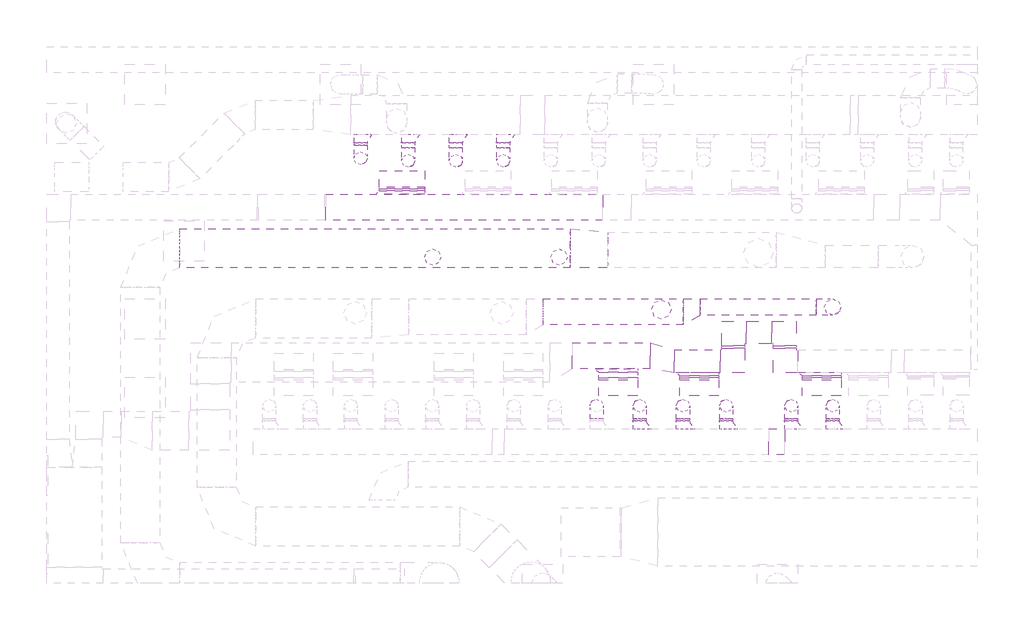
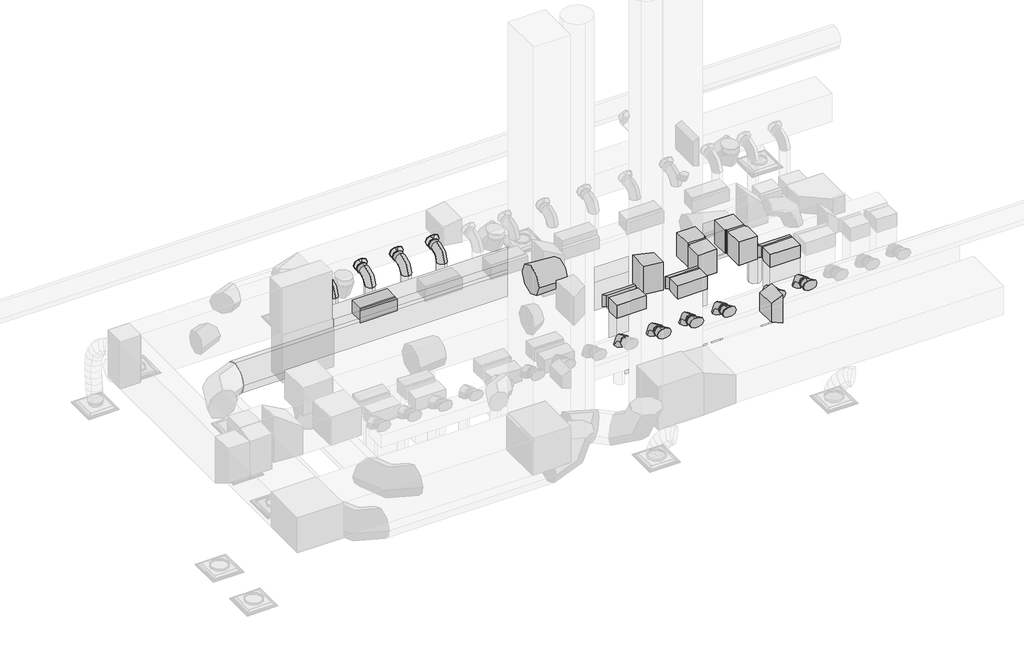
# One storey, part 22 of 33: 39 duct segments, 36 duct fittings.
"""IFC4 building model written with IfcOpenShell, lengths in millimetres."""

from ifc_helpers import new_model, si_unit, point, frame, frame_2d, origin, place, context, project, spatial, polyline, circle_curve, trimmed, segment, composite_curve, outline, extrude, transform, mapped, element, save
from components import rectangular_elbow_mitered_standard_1df2d050, rectangular_elbow_mitered_standard_22d18bc9, rectangular_elbow_mitered_standard_939e93b7, rectangular_tap_beveled_standard_61150e1b, rectangular_tap_beveled_standard_4401fc70, rectangular_tap_beveled_standard_f95184d4, rectangular_transition_angle_45_degree_179eea5a, rectangular_transition_angle_45_degree_5d946329, round_elbow_1_d_a253342a, round_elbow_1_d_6fec3262, round_takeoff_shoe_standard_1102fee2, round_transition_angle_30_degree_8316bf86, round_transition_angle_5_degree_dca123a1

model = new_model("IFC4")

# Units and contexts
model_context = context("Model", 3, world=origin())
ifc_project = project(units=[si_unit("LENGTHUNIT", "METRE", prefix="MILLI")], contexts=[model_context])

# Site, building, storey
site = spatial("IfcSite", under=ifc_project)
building = spatial("IfcBuilding", under=site)
storey = spatial("IfcBuildingStorey", under=building, Name="T.O. SLAB - 1ST", Elevation=-25.4)

# Duct fittings
placement = place(None, origin())
rectangular_elbow_mitered_standard_shape = rectangular_elbow_mitered_standard_1df2d050(model_context)
element("IfcDuctFitting", 1, ObjectType="Rectangular Elbow - Mitered : Standard", at=placement, inside=storey, context=model_context, shape_type="MappedRepresentation", body=[
    mapped(rectangular_elbow_mitered_standard_shape, transform((22447.3706646, 26457.7531965, 4530.1602958), x_axis=(1.0, 0.0, 0.0), y_axis=(0.0, 1.0, 0.0), z_axis=(0.0, 0.0, 1.0))),
])
element("IfcDuctFitting", 2, ObjectType="Rectangular Elbow - Mitered : Standard", at=placement, inside=storey, context=model_context, shape_type="MappedRepresentation", body=[
    mapped(rectangular_elbow_mitered_standard_shape, transform((22447.3706646, 26905.9810462, 4530.1602958), x_axis=(-1.0, 0.0, 0.0), y_axis=(0.0, -1.0, 0.0), z_axis=(0.0, 0.0, 1.0))),
])
element("IfcDuctFitting", 3, ObjectType="Rectangular Elbow - Mitered : Standard", at=placement, inside=storey, context=model_context, shape_type="MappedRepresentation", body=[
    mapped(rectangular_elbow_mitered_standard_shape, transform((23251.682861, 26905.9810462, 4530.1602958), x_axis=(0.0, 1.0, 0.0), y_axis=(-1.0, 0.0, 0.0), z_axis=(0.0, 0.0, 1.0))),
])
element("IfcDuctFitting", 4, ObjectType="Rectangular Elbow - Mitered : Standard", at=placement, inside=storey, context=model_context, shape_type="MappedRepresentation", body=[
    mapped(rectangular_elbow_mitered_standard_shape, transform((23251.682861, 26457.7531965, 4530.1602958), x_axis=(0.0, -1.0, 0.0), y_axis=(1.0, 0.0, 0.0), z_axis=(0.0, 0.0, 1.0))),
])
rectangular_elbow_mitered_standard_2_shape = rectangular_elbow_mitered_standard_22d18bc9(model_context)
element("IfcDuctFitting", 5, ObjectType="Rectangular Elbow - Mitered : Standard", at=placement, inside=storey, context=model_context, shape_type="MappedRepresentation", body=[
    mapped(rectangular_elbow_mitered_standard_2_shape, transform((17291.6527079, 29296.6861634, 3632.2), x_axis=(0.0, 0.0, 1.0), y_axis=(0.0, -1.0, 0.0), z_axis=(1.0, 0.0, 0.0))),
])
rectangular_elbow_mitered_standard_3_shape = rectangular_elbow_mitered_standard_939e93b7(model_context)
element("IfcDuctFitting", 6, ObjectType="Rectangular Elbow - Mitered : Standard", at=placement, inside=storey, context=model_context, shape_type="MappedRepresentation", body=[
    mapped(rectangular_elbow_mitered_standard_3_shape, transform((20656.7839544, 26045.4861634, 4445.0), x_axis=(0.0, 0.0, 1.0), y_axis=(0.0, 1.0, 0.0), z_axis=(-1.0, 0.0, 0.0))),
])
element("IfcDuctFitting", 7, ObjectType="Rectangular Elbow - Mitered : Standard", at=placement, inside=storey, context=model_context, shape_type="MappedRepresentation", body=[
    mapped(rectangular_elbow_mitered_standard_3_shape, transform((21919.1982352, 26045.4861634, 4428.5380972), x_axis=(0.0, 0.0, 1.0), y_axis=(0.0, 1.0, 0.0), z_axis=(-1.0, 0.0, 0.0))),
])
element("IfcDuctFitting", 8, ObjectType="Rectangular Elbow - Mitered : Standard", at=placement, inside=storey, context=model_context, shape_type="MappedRepresentation", body=[
    mapped(rectangular_elbow_mitered_standard_3_shape, transform((23826.8501854, 26045.4861634, 4445.0431527), x_axis=(0.0, 0.0, 1.0), y_axis=(0.0, 1.0, 0.0), z_axis=(-1.0, 0.0, 0.0))),
])
rectangular_tap_beveled_standard_shape = rectangular_tap_beveled_standard_61150e1b(model_context)
element("IfcDuctFitting", 9, ObjectType="Rectangular Tap - Beveled : Standard", at=placement, inside=storey, context=model_context, shape_type="MappedRepresentation", body=[
    mapped(rectangular_tap_beveled_standard_shape, transform((17291.6527079, 29062.2191303, 3632.2), x_axis=(0.0, 1.0, 0.0), y_axis=(1.0, 0.0, 0.0), z_axis=(0.0, 0.0, -1.0))),
])
rectangular_tap_beveled_standard_2_shape = rectangular_tap_beveled_standard_4401fc70(model_context)
element("IfcDuctFitting", 10, ObjectType="Rectangular Tap - Beveled : Standard", at=placement, inside=storey, context=model_context, shape_type="MappedRepresentation", body=[
    mapped(rectangular_tap_beveled_standard_2_shape, transform((21919.1982352, 26279.9531965, 4428.5380972), x_axis=(0.0, -1.0, 0.0), y_axis=(-1.0, 0.0, 0.0), z_axis=(0.0, 0.0, -1.0))),
])
element("IfcDuctFitting", 11, ObjectType="Rectangular Tap - Beveled : Standard", at=placement, inside=storey, context=model_context, shape_type="MappedRepresentation", body=[
    mapped(rectangular_tap_beveled_standard_2_shape, transform((23826.8501854, 26279.9531965, 4445.0431527), x_axis=(0.0, -1.0, 0.0), y_axis=(-1.0, 0.0, 0.0), z_axis=(0.0, 0.0, -1.0))),
])
rectangular_tap_beveled_standard_3_shape = rectangular_tap_beveled_standard_f95184d4(model_context)
element("IfcDuctFitting", 12, ObjectType="Rectangular Tap - Beveled : Standard", at=placement, inside=storey, context=model_context, shape_type="MappedRepresentation", body=[
    mapped(rectangular_tap_beveled_standard_3_shape, transform((20656.7839544, 26337.7714578, 4445.0), x_axis=(0.0, -1.0, 0.0), y_axis=(1.0000000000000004, 0.0, 0.0), z_axis=(0.0, 0.0, 1.0000000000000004))),
])
rectangular_transition_angle_45_degree_shape = rectangular_transition_angle_45_degree_179eea5a(model_context)
element("IfcDuctFitting", 13, ObjectType="Rectangular Transition - Angle : 45 Degree", at=placement, inside=storey, context=model_context, shape_type="MappedRepresentation", body=[
    mapped(rectangular_transition_angle_45_degree_shape, transform((21159.3202784, 26540.9554681, 4580.9602958), x_axis=(0.9999999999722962, 0.0, -7.44363158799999e-06), y_axis=(0.0, 1.0, 0.0), z_axis=(7.44363158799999e-06, 0.0, 0.9999999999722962))),
])
rectangular_transition_angle_45_degree_2_shape = rectangular_transition_angle_45_degree_5d946329(model_context)
element("IfcDuctFitting", 14, ObjectType="Rectangular Transition - Angle : 45 Degree", at=placement, inside=storey, context=model_context, shape_type="MappedRepresentation", body=[
    mapped(rectangular_transition_angle_45_degree_2_shape, transform((23249.5335927, 25204.454345, 4038.6), x_axis=(-1.0, 0.0, 0.0), y_axis=(0.0, -1.0, 0.0), z_axis=(0.0, 0.0, 1.0))),
])
round_elbow_1_d_shape = round_elbow_1_d_a253342a(model_context)
element("IfcDuctFitting", 15, ObjectType="Round Elbow : 1 D", at=placement, inside=storey, context=model_context, shape_type="MappedRepresentation", body=[
    mapped(round_elbow_1_d_shape, transform((20320.2339544, 25766.0861634, 4038.6), x_axis=(0.0, 0.0, 1.0), y_axis=(0.0, -1.0, 0.0), z_axis=(1.0, 0.0, 0.0))),
])
element("IfcDuctFitting", 16, ObjectType="Round Elbow : 1 D", at=placement, inside=storey, context=model_context, shape_type="MappedRepresentation", body=[
    mapped(round_elbow_1_d_shape, transform((20993.3339544, 25766.0861634, 4038.6), x_axis=(0.0, 0.0, 1.0), y_axis=(0.0, -1.0, 0.0), z_axis=(1.0, 0.0, 0.0))),
])
element("IfcDuctFitting", 17, ObjectType="Round Elbow : 1 D", at=placement, inside=storey, context=model_context, shape_type="MappedRepresentation", body=[
    mapped(round_elbow_1_d_shape, transform((21666.4339544, 25766.0861634, 4038.6), x_axis=(0.0, 0.0, 1.0), y_axis=(0.0, -1.0, 0.0), z_axis=(1.0, 0.0, 0.0))),
])
element("IfcDuctFitting", 18, ObjectType="Round Elbow : 1 D", at=placement, inside=storey, context=model_context, shape_type="MappedRepresentation", body=[
    mapped(round_elbow_1_d_shape, transform((22339.5339544, 25766.0861634, 4038.6), x_axis=(0.0, 0.0, 1.0), y_axis=(0.0, -1.0, 0.0), z_axis=(1.0, 0.0, 0.0))),
])
element("IfcDuctFitting", 19, ObjectType="Round Elbow : 1 D", at=placement, inside=storey, context=model_context, shape_type="MappedRepresentation", body=[
    mapped(round_elbow_1_d_shape, transform((23355.5339544, 25766.0861634, 4038.6), x_axis=(0.0, 0.0, 1.0), y_axis=(0.0, -1.0, 0.0), z_axis=(1.0, 0.0, 0.0))),
])
element("IfcDuctFitting", 20, ObjectType="Round Elbow : 1 D", at=placement, inside=storey, context=model_context, shape_type="MappedRepresentation", body=[
    mapped(round_elbow_1_d_shape, transform((23999.5015196, 25766.0861634, 4038.6), x_axis=(0.0, 0.0, 1.0), y_axis=(0.0, -1.0, 0.0), z_axis=(1.0, 0.0, 0.0))),
])
element("IfcDuctFitting", 21, ObjectType="Round Elbow : 1 D", at=placement, inside=storey, context=model_context, shape_type="MappedRepresentation", body=[
    mapped(round_elbow_1_d_shape, transform((18866.0839544, 29579.704725, 4038.6), x_axis=(0.0, 0.0, 1.0), y_axis=(0.0, 1.0, 0.0), z_axis=(-1.0, 0.0, 0.0))),
])
element("IfcDuctFitting", 22, ObjectType="Round Elbow : 1 D", at=placement, inside=storey, context=model_context, shape_type="MappedRepresentation", body=[
    mapped(round_elbow_1_d_shape, transform((18129.4839544, 29579.704725, 4038.6), x_axis=(0.0, 0.0, 1.0), y_axis=(0.0, 1.0, 0.0), z_axis=(-1.0, 0.0, 0.0))),
])
element("IfcDuctFitting", 23, ObjectType="Round Elbow : 1 D", at=placement, inside=storey, context=model_context, shape_type="MappedRepresentation", body=[
    mapped(round_elbow_1_d_shape, transform((17386.5339544, 29579.704725, 4038.6), x_axis=(0.0, 0.0, 1.0), y_axis=(0.0, 1.0, 0.0), z_axis=(-1.0, 0.0, 0.0))),
])
element("IfcDuctFitting", 24, ObjectType="Round Elbow : 1 D", at=placement, inside=storey, context=model_context, shape_type="MappedRepresentation", body=[
    mapped(round_elbow_1_d_shape, transform((16643.5839544, 29621.3408687, 4038.6), x_axis=(0.0, 0.0, 1.0), y_axis=(0.0, 1.0, 0.0), z_axis=(-1.0, 0.0, 0.0))),
])
round_elbow_1_d_2_shape = round_elbow_1_d_6fec3262(model_context)
element("IfcDuctFitting", 25, ObjectType="Round Elbow : 1 D", at=placement, inside=storey, context=model_context, shape_type="MappedRepresentation", body=[
    mapped(round_elbow_1_d_2_shape, transform((23996.9081145, 27302.9634642, 3892.55), x_axis=(1.0, 0.0, 0.0), y_axis=(0.0, 0.0, -1.0), z_axis=(0.0, 1.0, 0.0))),
])
round_takeoff_shoe_standard_shape = round_takeoff_shoe_standard_1102fee2(model_context)
element("IfcDuctFitting", 26, ObjectType="Round Takeoff - Shoe : Standard", at=placement, inside=storey, context=model_context, shape_type="MappedRepresentation", body=[
    mapped(round_takeoff_shoe_standard_shape, transform((20993.3339544, 25407.654345, 4038.6), x_axis=(0.0, 1.0, 0.0), y_axis=(1.0, 0.0, 0.0), z_axis=(0.0, 0.0, -1.0))),
])
element("IfcDuctFitting", 27, ObjectType="Round Takeoff - Shoe : Standard", at=placement, inside=storey, context=model_context, shape_type="MappedRepresentation", body=[
    mapped(round_takeoff_shoe_standard_shape, transform((21666.4339544, 25407.654345, 4038.6), x_axis=(0.0, 1.0, 0.0), y_axis=(1.0, 0.0, 0.0), z_axis=(0.0, 0.0, -1.0))),
])
element("IfcDuctFitting", 28, ObjectType="Round Takeoff - Shoe : Standard", at=placement, inside=storey, context=model_context, shape_type="MappedRepresentation", body=[
    mapped(round_takeoff_shoe_standard_shape, transform((22339.5339544, 25407.654345, 4038.6), x_axis=(0.0, 1.0, 0.0), y_axis=(1.0, 0.0, 0.0), z_axis=(0.0, 0.0, -1.0))),
])
element("IfcDuctFitting", 29, ObjectType="Round Takeoff - Shoe : Standard", at=placement, inside=storey, context=model_context, shape_type="MappedRepresentation", body=[
    mapped(round_takeoff_shoe_standard_shape, transform((23355.5339544, 25407.654345, 4038.6), x_axis=(0.0, 1.0, 0.0), y_axis=(1.0, 0.0, 0.0), z_axis=(0.0, 0.0, -1.0))),
])
element("IfcDuctFitting", 30, ObjectType="Round Takeoff - Shoe : Standard", at=placement, inside=storey, context=model_context, shape_type="MappedRepresentation", body=[
    mapped(round_takeoff_shoe_standard_shape, transform((23999.5015196, 25407.654345, 4038.6), x_axis=(0.0, 1.0, 0.0), y_axis=(1.0, 0.0, 0.0), z_axis=(0.0, 0.0, -1.0))),
])
element("IfcDuctFitting", 31, ObjectType="Round Takeoff - Shoe : Standard", at=placement, inside=storey, context=model_context, shape_type="MappedRepresentation", body=[
    mapped(round_takeoff_shoe_standard_shape, transform((18866.0839544, 29989.6408687, 4038.6), x_axis=(0.0, -1.0, 0.0), y_axis=(1.0000000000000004, 0.0, 0.0), z_axis=(0.0, 0.0, 1.0000000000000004))),
])
element("IfcDuctFitting", 32, ObjectType="Round Takeoff - Shoe : Standard", at=placement, inside=storey, context=model_context, shape_type="MappedRepresentation", body=[
    mapped(round_takeoff_shoe_standard_shape, transform((18129.4839544, 29989.6408687, 4038.6), x_axis=(0.0, -1.0, 0.0), y_axis=(1.0000000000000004, 0.0, 0.0), z_axis=(0.0, 0.0, 1.0000000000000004))),
])
element("IfcDuctFitting", 33, ObjectType="Round Takeoff - Shoe : Standard", at=placement, inside=storey, context=model_context, shape_type="MappedRepresentation", body=[
    mapped(round_takeoff_shoe_standard_shape, transform((17386.5339544, 29989.6408687, 4038.6), x_axis=(0.0, -1.0, 0.0), y_axis=(1.0000000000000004, 0.0, 0.0), z_axis=(0.0, 0.0, 1.0000000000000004))),
])
element("IfcDuctFitting", 34, ObjectType="Round Takeoff - Shoe : Standard", at=placement, inside=storey, context=model_context, shape_type="MappedRepresentation", body=[
    mapped(round_takeoff_shoe_standard_shape, transform((16643.5839544, 29989.6408687, 4038.6), x_axis=(0.0, -1.0, 0.0), y_axis=(1.0000000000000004, 0.0, 0.0), z_axis=(0.0, 0.0, 1.0000000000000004))),
])
round_transition_angle_30_degree_shape = round_transition_angle_30_degree_8316bf86(model_context)
element("IfcDuctFitting", 35, ObjectType="Round Transition - Angle : 30 Degree", at=placement, inside=storey, context=model_context, shape_type="MappedRepresentation", body=[
    mapped(round_transition_angle_30_degree_shape, transform((21669.6942608, 27226.7634642, 3892.55), x_axis=(1.0, 0.0, 0.0), y_axis=(0.0, 1.0, 0.0), z_axis=(0.0, 0.0, 1.0))),
])
round_transition_angle_5_degree_shape = round_transition_angle_5_degree_dca123a1(model_context)
element("IfcDuctFitting", 36, ObjectType="Round Transition - Angle : 5 Degree", at=placement, inside=storey, context=model_context, shape_type="MappedRepresentation", body=[
    mapped(round_transition_angle_5_degree_shape, transform((19913.8339544, 28217.6045473, 3892.55), x_axis=(1.0, 0.0, 0.0), y_axis=(0.0, 1.0, 0.0), z_axis=(0.0, 0.0, 1.0))),
])

# Duct segments
element("IfcDuctSegment", 37, ObjectType="Mitered Elbows / Taps", at=placement, inside=storey, context=model_context, shape_type="SweptSolid", body=[
    extrude(outline(polyline([(16101.896851, 28655.8191303), (16101.896851, 29062.2191303), (20419.896851, 29062.2191303), (20419.896851, 28655.8191303), (16101.896851, 28655.8191303)])), frame((0.0, 0.0, 3075.94), z_axis=(0.0, 0.0, 1.0), x_axis=(1.0, 0.0, 0.0)), (0.0, 0.0, 1.0), 1016.0),
])
element("IfcDuctSegment", 38, ObjectType="Mitered Elbows / Taps", at=placement, inside=storey, context=model_context, shape_type="SweptSolid", body=[
    extrude(outline(polyline([(17647.2527079, 29169.6861634), (16936.0527079, 29169.6861634), (16936.0527079, 29423.6861634), (17647.2527079, 29423.6861634), (17647.2527079, 29169.6861634)])), frame((0.0, 0.0, 3010.628306), z_axis=(0.0, 0.0, 1.0), x_axis=(1.0, 0.0, 0.0)), (0.0, 0.0, 1.0), 469.171694),
])
element("IfcDuctSegment", 39, ObjectType="Mitered Elbows / Taps", at=placement, inside=storey, context=model_context, shape_type="SweptSolid", body=[
    extrude(outline(polyline([(16936.0527079, 29144.2861634), (17647.2527079, 29144.2861634), (17647.2527079, 29113.0191303), (16936.0527079, 29113.0191303), (16936.0527079, 29144.2861634)])), frame((0.0, 0.0, 3505.2), z_axis=(0.0, 0.0, 1.0), x_axis=(1.0, 0.0, 0.0)), (0.0, 0.0, 1.0), 254.0),
])
element("IfcDuctSegment", 40, ObjectType="Mitered Elbows / Taps", at=placement, inside=storey, context=model_context, shape_type="SweptSolid", body=[
    extrude(outline(polyline([(22625.1706646, 26660.9531965), (22269.5706646, 26660.9531965), (22269.5706646, 26702.7810462), (22625.1706646, 26702.7810462), (22625.1706646, 26660.9531965)])), frame((0.0, 0.0, 4276.1602958), z_axis=(0.0, 0.0, 1.0), x_axis=(1.0, 0.0, 0.0)), (0.0, 0.0, 1.0), 508.0),
])
element("IfcDuctSegment", 41, ObjectType="Mitered Elbows / Taps", at=placement, inside=storey, context=model_context, shape_type="SweptSolid", body=[
    extrude(outline(polyline([(22650.5706646, 26728.1810462), (22650.5706646, 27083.7810462), (23048.482861, 27083.7810462), (23048.482861, 26728.1810462), (22650.5706646, 26728.1810462)])), frame((0.0, 0.0, 4276.1602958), z_axis=(0.0, 0.0, 1.0), x_axis=(1.0, 0.0, 0.0)), (0.0, 0.0, 1.0), 508.0),
])
element("IfcDuctSegment", 42, ObjectType="Mitered Elbows / Taps", at=placement, inside=storey, context=model_context, shape_type="SweptSolid", body=[
    extrude(outline(polyline([(23073.882861, 26702.7810462), (23429.482861, 26702.7810462), (23429.482861, 26660.9531965), (23073.882861, 26660.9531965), (23073.882861, 26702.7810462)])), frame((0.0, 0.0, 4276.1602958), z_axis=(0.0, 0.0, 1.0), x_axis=(1.0, 0.0, 0.0)), (0.0, 0.0, 1.0), 508.0),
])
element("IfcDuctSegment", 43, ObjectType="Mitered Elbows / Taps", at=placement, inside=storey, context=model_context, shape_type="SweptSolid", body=[
    extrude(outline(polyline([(20961.5839544, 25918.4861634), (20351.9839544, 25918.4861634), (20351.9839544, 26172.4861634), (20961.5839544, 26172.4861634), (20961.5839544, 25918.4861634)])), frame((0.0, 0.0, 3010.628306), z_axis=(0.0, 0.0, 1.0), x_axis=(1.0, 0.0, 0.0)), (0.0, 0.0, 1.0), 1281.971694),
])
element("IfcDuctSegment", 44, ObjectType="Mitered Elbows / Taps", at=placement, inside=storey, context=model_context, shape_type="SweptSolid", body=[
    extrude(outline(polyline([(20961.5839544, 26197.8861634), (20351.9839544, 26197.8861634), (20351.9839544, 26286.9714578), (20961.5839544, 26286.9714578), (20961.5839544, 26197.8861634)])), frame((0.0, 0.0, 4318.0), z_axis=(0.0, 0.0, 1.0), x_axis=(1.0, 0.0, 0.0)), (0.0, 0.0, 1.0), 254.0),
])
element("IfcDuctSegment", 45, ObjectType="Mitered Elbows / Taps", at=placement, inside=storey, context=model_context, shape_type="SweptSolid", body=[
    extrude(outline(polyline([(22223.9982352, 25918.4861634), (21614.3982352, 25918.4861634), (21614.3982352, 26172.4861634), (22223.9982352, 26172.4861634), (22223.9982352, 25918.4861634)])), frame((0.0, 0.0, 3010.628306), z_axis=(0.0, 0.0, 1.0), x_axis=(1.0, 0.0, 0.0)), (0.0, 0.0, 1.0), 1265.5097912),
])
element("IfcDuctSegment", 46, ObjectType="Mitered Elbows / Taps", at=placement, inside=storey, context=model_context, shape_type="SweptSolid", body=[
    extrude(outline(polyline([(22223.9982352, 26197.8861634), (21614.3982352, 26197.8861634), (21614.3982352, 26229.1531965), (22223.9982352, 26229.1531965), (22223.9982352, 26197.8861634)])), frame((0.0, 0.0, 4301.5380972), z_axis=(0.0, 0.0, 1.0), x_axis=(1.0, 0.0, 0.0)), (0.0, 0.0, 1.0), 254.0),
])
element("IfcDuctSegment", 47, ObjectType="Mitered Elbows / Taps", at=placement, inside=storey, context=model_context, shape_type="SweptSolid", body=[
    extrude(outline(polyline([(24131.6501854, 25918.4861634), (23522.0501854, 25918.4861634), (23522.0501854, 26172.4861634), (24131.6501854, 26172.4861634), (24131.6501854, 25918.4861634)])), frame((0.0, 0.0, 3010.628306), z_axis=(0.0, 0.0, 1.0), x_axis=(1.0, 0.0, 0.0)), (0.0, 0.0, 1.0), 1282.0148466),
])
element("IfcDuctSegment", 48, ObjectType="Mitered Elbows / Taps", at=placement, inside=storey, context=model_context, shape_type="SweptSolid", body=[
    extrude(outline(polyline([(24131.6501854, 26197.8861634), (23522.0501854, 26197.8861634), (23522.0501854, 26229.1531965), (24131.6501854, 26229.1531965), (24131.6501854, 26197.8861634)])), frame((0.0, 0.0, 4318.0431527), z_axis=(0.0, 0.0, 1.0), x_axis=(1.0, 0.0, 0.0)), (0.0, 0.0, 1.0), 254.0),
])
element("IfcDuctSegment", 49, ObjectType="Mitered Elbows / Taps", at=placement, inside=storey, context=model_context, shape_type="SweptSolid", body=[
    extrude(outline(polyline([(21159.3202784, 26744.1554681), (21159.3202784, 26337.7554681), (19942.4293019, 26337.7554681), (19942.4293019, 26744.1554681), (21159.3202784, 26744.1554681)])), frame((0.0, 0.0, 4276.1602958), z_axis=(0.0, 0.0, 1.0), x_axis=(1.0, 0.0, 0.0)), (0.0, 0.0, 1.0), 609.6),
])
element("IfcDuctSegment", 50, ObjectType="Mitered Elbows / Taps", at=placement, inside=storey, context=model_context, shape_type="SweptSolid", body=[
    extrude(outline(polyline([(21527.2496989, 26279.9372069), (21527.2496989, 26635.5372069), (22244.1755487, 26635.5372069), (22244.1755487, 26279.9372069), (21527.2496989, 26279.9372069)])), frame((0.0, 0.0, 4276.1602958), z_axis=(0.0, 0.0, 1.0), x_axis=(1.0, 0.0, 0.0)), (0.0, 0.0, 1.0), 609.6),
])
element("IfcDuctSegment", 51, ObjectType="Taps", at=placement, inside=storey, context=model_context, shape_type="SweptSolid", body=[
    extrude(outline(composite_curve([segment(trimmed(circle_curve(frame_2d((4038.6, 20993.3339544)), 101.6), [point((4038.6, 20891.7339544))], [point((3937.0, 20993.3339544))], False, "CARTESIAN"), True, "CONTINUOUS"), segment(trimmed(circle_curve(frame_2d((4038.6, 20993.3339544)), 101.6), [point((3937.0, 20993.3339544))], [point((4038.6, 21094.9339544))], False, "CARTESIAN"), True, "CONTINUOUS"), segment(trimmed(circle_curve(frame_2d((4038.6, 20993.3339544)), 101.6), [point((4038.6, 21094.9339544))], [point((4140.2, 20993.3339544))], False, "CARTESIAN"), True, "CONTINUOUS"), segment(trimmed(circle_curve(frame_2d((4038.6, 20993.3339544)), 101.6), [point((4140.2, 20993.3339544))], [point((4038.6, 20891.7339544))], False, "CARTESIAN"), True, "CONTINUOUS")], self_intersect=False)), frame((0.0, 25534.654345, 0.0), z_axis=(0.0, 1.0, 0.0), x_axis=(0.0, 0.0, 1.0)), (0.0, 0.0, 1.0), 28.2318184),
])
element("IfcDuctSegment", 52, ObjectType="Taps", at=placement, inside=storey, context=model_context, shape_type="SweptSolid", body=[
    extrude(outline(composite_curve([segment(trimmed(circle_curve(frame_2d((20993.3339544, 25766.0861634)), 101.6), [point((21094.9339544, 25766.0861634))], [point((20993.3339544, 25664.4861634))], False, "CARTESIAN"), True, "CONTINUOUS"), segment(trimmed(circle_curve(frame_2d((20993.3339544, 25766.0861634)), 101.6), [point((20993.3339544, 25664.4861634))], [point((20891.7339544, 25766.0861634))], False, "CARTESIAN"), True, "CONTINUOUS"), segment(trimmed(circle_curve(frame_2d((20993.3339544, 25766.0861634)), 101.6), [point((20891.7339544, 25766.0861634))], [point((20993.3339544, 25867.6861634))], False, "CARTESIAN"), True, "CONTINUOUS"), segment(trimmed(circle_curve(frame_2d((20993.3339544, 25766.0861634)), 101.6), [point((20993.3339544, 25867.6861634))], [point((21094.9339544, 25766.0861634))], False, "CARTESIAN"), True, "CONTINUOUS")], self_intersect=False)), frame((0.0, 0.0, 3010.628306), z_axis=(0.0, 0.0, 1.0), x_axis=(1.0, 0.0, 0.0)), (0.0, 0.0, 1.0), 824.771694),
])
element("IfcDuctSegment", 53, ObjectType="Taps", at=placement, inside=storey, context=model_context, shape_type="SweptSolid", body=[
    extrude(outline(composite_curve([segment(trimmed(circle_curve(frame_2d((4038.6, 21666.4339544)), 101.6), [point((4038.6, 21564.8339544))], [point((3937.0, 21666.4339544))], False, "CARTESIAN"), True, "CONTINUOUS"), segment(trimmed(circle_curve(frame_2d((4038.6, 21666.4339544)), 101.6), [point((3937.0, 21666.4339544))], [point((4038.6, 21768.0339544))], False, "CARTESIAN"), True, "CONTINUOUS"), segment(trimmed(circle_curve(frame_2d((4038.6, 21666.4339544)), 101.6), [point((4038.6, 21768.0339544))], [point((4140.2, 21666.4339544))], False, "CARTESIAN"), True, "CONTINUOUS"), segment(trimmed(circle_curve(frame_2d((4038.6, 21666.4339544)), 101.6), [point((4140.2, 21666.4339544))], [point((4038.6, 21564.8339544))], False, "CARTESIAN"), True, "CONTINUOUS")], self_intersect=False)), frame((0.0, 25534.654345, 0.0), z_axis=(0.0, 1.0, 0.0), x_axis=(0.0, 0.0, 1.0)), (0.0, 0.0, 1.0), 28.2318184),
])
element("IfcDuctSegment", 54, ObjectType="Taps", at=placement, inside=storey, context=model_context, shape_type="SweptSolid", body=[
    extrude(outline(composite_curve([segment(trimmed(circle_curve(frame_2d((21666.4339544, 25766.0861634)), 101.6), [point((21768.0339544, 25766.0861634))], [point((21666.4339544, 25664.4861634))], False, "CARTESIAN"), True, "CONTINUOUS"), segment(trimmed(circle_curve(frame_2d((21666.4339544, 25766.0861634)), 101.6), [point((21666.4339544, 25664.4861634))], [point((21564.8339544, 25766.0861634))], False, "CARTESIAN"), True, "CONTINUOUS"), segment(trimmed(circle_curve(frame_2d((21666.4339544, 25766.0861634)), 101.6), [point((21564.8339544, 25766.0861634))], [point((21666.4339544, 25867.6861634))], False, "CARTESIAN"), True, "CONTINUOUS"), segment(trimmed(circle_curve(frame_2d((21666.4339544, 25766.0861634)), 101.6), [point((21666.4339544, 25867.6861634))], [point((21768.0339544, 25766.0861634))], False, "CARTESIAN"), True, "CONTINUOUS")], self_intersect=False)), frame((0.0, 0.0, 3010.628306), z_axis=(0.0, 0.0, 1.0), x_axis=(1.0, 0.0, 0.0)), (0.0, 0.0, 1.0), 824.771694),
])
element("IfcDuctSegment", 55, ObjectType="Taps", at=placement, inside=storey, context=model_context, shape_type="SweptSolid", body=[
    extrude(outline(composite_curve([segment(trimmed(circle_curve(frame_2d((4038.6, 22339.5339544)), 101.6), [point((4038.6, 22237.9339544))], [point((3937.0, 22339.5339544))], False, "CARTESIAN"), True, "CONTINUOUS"), segment(trimmed(circle_curve(frame_2d((4038.6, 22339.5339544)), 101.6), [point((3937.0, 22339.5339544))], [point((4038.6, 22441.1339544))], False, "CARTESIAN"), True, "CONTINUOUS"), segment(trimmed(circle_curve(frame_2d((4038.6, 22339.5339544)), 101.6), [point((4038.6, 22441.1339544))], [point((4140.2, 22339.5339544))], False, "CARTESIAN"), True, "CONTINUOUS"), segment(trimmed(circle_curve(frame_2d((4038.6, 22339.5339544)), 101.6), [point((4140.2, 22339.5339544))], [point((4038.6, 22237.9339544))], False, "CARTESIAN"), True, "CONTINUOUS")], self_intersect=False)), frame((0.0, 25534.654345, 0.0), z_axis=(0.0, 1.0, 0.0), x_axis=(0.0, 0.0, 1.0)), (0.0, 0.0, 1.0), 28.2318184),
])
element("IfcDuctSegment", 56, ObjectType="Taps", at=placement, inside=storey, context=model_context, shape_type="SweptSolid", body=[
    extrude(outline(composite_curve([segment(trimmed(circle_curve(frame_2d((22339.5339544, 25766.0861634)), 101.6), [point((22441.1339544, 25766.0861634))], [point((22339.5339544, 25664.4861634))], False, "CARTESIAN"), True, "CONTINUOUS"), segment(trimmed(circle_curve(frame_2d((22339.5339544, 25766.0861634)), 101.6), [point((22339.5339544, 25664.4861634))], [point((22237.9339544, 25766.0861634))], False, "CARTESIAN"), True, "CONTINUOUS"), segment(trimmed(circle_curve(frame_2d((22339.5339544, 25766.0861634)), 101.6), [point((22237.9339544, 25766.0861634))], [point((22339.5339544, 25867.6861634))], False, "CARTESIAN"), True, "CONTINUOUS"), segment(trimmed(circle_curve(frame_2d((22339.5339544, 25766.0861634)), 101.6), [point((22339.5339544, 25867.6861634))], [point((22441.1339544, 25766.0861634))], False, "CARTESIAN"), True, "CONTINUOUS")], self_intersect=False)), frame((0.0, 0.0, 3010.628306), z_axis=(0.0, 0.0, 1.0), x_axis=(1.0, 0.0, 0.0)), (0.0, 0.0, 1.0), 824.771694),
])
element("IfcDuctSegment", 57, ObjectType="Taps", at=placement, inside=storey, context=model_context, shape_type="SweptSolid", body=[
    extrude(outline(composite_curve([segment(trimmed(circle_curve(frame_2d((4038.6, 23355.5339544)), 101.6), [point((4038.6, 23253.9339544))], [point((3937.0, 23355.5339544))], False, "CARTESIAN"), True, "CONTINUOUS"), segment(trimmed(circle_curve(frame_2d((4038.6, 23355.5339544)), 101.6), [point((3937.0, 23355.5339544))], [point((4038.6, 23457.1339544))], False, "CARTESIAN"), True, "CONTINUOUS"), segment(trimmed(circle_curve(frame_2d((4038.6, 23355.5339544)), 101.6), [point((4038.6, 23457.1339544))], [point((4140.2, 23355.5339544))], False, "CARTESIAN"), True, "CONTINUOUS"), segment(trimmed(circle_curve(frame_2d((4038.6, 23355.5339544)), 101.6), [point((4140.2, 23355.5339544))], [point((4038.6, 23253.9339544))], False, "CARTESIAN"), True, "CONTINUOUS")], self_intersect=False)), frame((0.0, 25534.654345, 0.0), z_axis=(0.0, 1.0, 0.0), x_axis=(0.0, 0.0, 1.0)), (0.0, 0.0, 1.0), 28.2318184),
])
element("IfcDuctSegment", 58, ObjectType="Taps", at=placement, inside=storey, context=model_context, shape_type="SweptSolid", body=[
    extrude(outline(composite_curve([segment(trimmed(circle_curve(frame_2d((23355.5339544, 25766.0861634)), 101.6), [point((23457.1339544, 25766.0861634))], [point((23355.5339544, 25664.4861634))], False, "CARTESIAN"), True, "CONTINUOUS"), segment(trimmed(circle_curve(frame_2d((23355.5339544, 25766.0861634)), 101.6), [point((23355.5339544, 25664.4861634))], [point((23253.9339544, 25766.0861634))], False, "CARTESIAN"), True, "CONTINUOUS"), segment(trimmed(circle_curve(frame_2d((23355.5339544, 25766.0861634)), 101.6), [point((23253.9339544, 25766.0861634))], [point((23355.5339544, 25867.6861634))], False, "CARTESIAN"), True, "CONTINUOUS"), segment(trimmed(circle_curve(frame_2d((23355.5339544, 25766.0861634)), 101.6), [point((23355.5339544, 25867.6861634))], [point((23457.1339544, 25766.0861634))], False, "CARTESIAN"), True, "CONTINUOUS")], self_intersect=False)), frame((0.0, 0.0, 3010.628306), z_axis=(0.0, 0.0, 1.0), x_axis=(1.0, 0.0, 0.0)), (0.0, 0.0, 1.0), 824.771694),
])
element("IfcDuctSegment", 59, ObjectType="Taps", at=placement, inside=storey, context=model_context, shape_type="SweptSolid", body=[
    extrude(outline(composite_curve([segment(trimmed(circle_curve(frame_2d((4038.6, 23999.5015196)), 101.6), [point((4038.6, 23897.9015196))], [point((3937.0, 23999.5015196))], False, "CARTESIAN"), True, "CONTINUOUS"), segment(trimmed(circle_curve(frame_2d((4038.6, 23999.5015196)), 101.6), [point((3937.0, 23999.5015196))], [point((4038.6, 24101.1015196))], False, "CARTESIAN"), True, "CONTINUOUS"), segment(trimmed(circle_curve(frame_2d((4038.6, 23999.5015196)), 101.6), [point((4038.6, 24101.1015196))], [point((4140.2, 23999.5015196))], False, "CARTESIAN"), True, "CONTINUOUS"), segment(trimmed(circle_curve(frame_2d((4038.6, 23999.5015196)), 101.6), [point((4140.2, 23999.5015196))], [point((4038.6, 23897.9015196))], False, "CARTESIAN"), True, "CONTINUOUS")], self_intersect=False)), frame((0.0, 25534.654345, 0.0), z_axis=(0.0, 1.0, 0.0), x_axis=(0.0, 0.0, 1.0)), (0.0, 0.0, 1.0), 28.2318184),
])
element("IfcDuctSegment", 60, ObjectType="Taps", at=placement, inside=storey, context=model_context, shape_type="SweptSolid", body=[
    extrude(outline(composite_curve([segment(trimmed(circle_curve(frame_2d((23999.5015196, 25766.0861634)), 101.6), [point((24101.1015196, 25766.0861634))], [point((23999.5015196, 25664.4861634))], False, "CARTESIAN"), True, "CONTINUOUS"), segment(trimmed(circle_curve(frame_2d((23999.5015196, 25766.0861634)), 101.6), [point((23999.5015196, 25664.4861634))], [point((23897.9015196, 25766.0861634))], False, "CARTESIAN"), True, "CONTINUOUS"), segment(trimmed(circle_curve(frame_2d((23999.5015196, 25766.0861634)), 101.6), [point((23897.9015196, 25766.0861634))], [point((23999.5015196, 25867.6861634))], False, "CARTESIAN"), True, "CONTINUOUS"), segment(trimmed(circle_curve(frame_2d((23999.5015196, 25766.0861634)), 101.6), [point((23999.5015196, 25867.6861634))], [point((24101.1015196, 25766.0861634))], False, "CARTESIAN"), True, "CONTINUOUS")], self_intersect=False)), frame((0.0, 0.0, 3010.628306), z_axis=(0.0, 0.0, 1.0), x_axis=(1.0, 0.0, 0.0)), (0.0, 0.0, 1.0), 824.771694),
])
element("IfcDuctSegment", 61, ObjectType="Taps", at=placement, inside=storey, context=model_context, shape_type="SweptSolid", body=[
    extrude(outline(composite_curve([segment(trimmed(circle_curve(frame_2d((4038.6, 18866.0839544)), 101.6), [point((4038.6, 18967.6839544))], [point((4140.2, 18866.0839544))], False, "CARTESIAN"), True, "CONTINUOUS"), segment(trimmed(circle_curve(frame_2d((4038.6, 18866.0839544)), 101.6), [point((4140.2, 18866.0839544))], [point((4038.6, 18764.4839544))], False, "CARTESIAN"), True, "CONTINUOUS"), segment(trimmed(circle_curve(frame_2d((4038.6, 18866.0839544)), 101.6), [point((4038.6, 18764.4839544))], [point((3937.0, 18866.0839544))], False, "CARTESIAN"), True, "CONTINUOUS"), segment(trimmed(circle_curve(frame_2d((4038.6, 18866.0839544)), 101.6), [point((3937.0, 18866.0839544))], [point((4038.6, 18967.6839544))], False, "CARTESIAN"), True, "CONTINUOUS")], self_intersect=False)), frame((0.0, 29782.904725, 0.0), z_axis=(0.0, 1.0, 0.0), x_axis=(0.0, 0.0, 1.0)), (0.0, 0.0, 1.0), 79.7361437),
])
element("IfcDuctSegment", 62, ObjectType="Taps", at=placement, inside=storey, context=model_context, shape_type="SweptSolid", body=[
    extrude(outline(composite_curve([segment(trimmed(circle_curve(frame_2d((18866.0839544, 29579.704725)), 101.6), [point((18967.6839544, 29579.704725))], [point((18866.0839544, 29478.104725))], False, "CARTESIAN"), True, "CONTINUOUS"), segment(trimmed(circle_curve(frame_2d((18866.0839544, 29579.704725)), 101.6), [point((18866.0839544, 29478.104725))], [point((18764.4839544, 29579.704725))], False, "CARTESIAN"), True, "CONTINUOUS"), segment(trimmed(circle_curve(frame_2d((18866.0839544, 29579.704725)), 101.6), [point((18764.4839544, 29579.704725))], [point((18866.0839544, 29681.304725))], False, "CARTESIAN"), True, "CONTINUOUS"), segment(trimmed(circle_curve(frame_2d((18866.0839544, 29579.704725)), 101.6), [point((18866.0839544, 29681.304725))], [point((18967.6839544, 29579.704725))], False, "CARTESIAN"), True, "CONTINUOUS")], self_intersect=False)), frame((0.0, 0.0, 3010.628306), z_axis=(0.0, 0.0, 1.0), x_axis=(1.0, 0.0, 0.0)), (0.0, 0.0, 1.0), 824.771694),
])
element("IfcDuctSegment", 63, ObjectType="Taps", at=placement, inside=storey, context=model_context, shape_type="SweptSolid", body=[
    extrude(outline(composite_curve([segment(trimmed(circle_curve(frame_2d((4038.6, 18129.4839544)), 101.6), [point((4038.6, 18231.0839544))], [point((4140.2, 18129.4839544))], False, "CARTESIAN"), True, "CONTINUOUS"), segment(trimmed(circle_curve(frame_2d((4038.6, 18129.4839544)), 101.6), [point((4140.2, 18129.4839544))], [point((4038.6, 18027.8839544))], False, "CARTESIAN"), True, "CONTINUOUS"), segment(trimmed(circle_curve(frame_2d((4038.6, 18129.4839544)), 101.6), [point((4038.6, 18027.8839544))], [point((3937.0, 18129.4839544))], False, "CARTESIAN"), True, "CONTINUOUS"), segment(trimmed(circle_curve(frame_2d((4038.6, 18129.4839544)), 101.6), [point((3937.0, 18129.4839544))], [point((4038.6, 18231.0839544))], False, "CARTESIAN"), True, "CONTINUOUS")], self_intersect=False)), frame((0.0, 29782.904725, 0.0), z_axis=(0.0, 1.0, 0.0), x_axis=(0.0, 0.0, 1.0)), (0.0, 0.0, 1.0), 79.7361437),
])
element("IfcDuctSegment", 64, ObjectType="Taps", at=placement, inside=storey, context=model_context, shape_type="SweptSolid", body=[
    extrude(outline(composite_curve([segment(trimmed(circle_curve(frame_2d((18129.4839544, 29579.704725)), 101.6), [point((18231.0839544, 29579.704725))], [point((18129.4839544, 29478.104725))], False, "CARTESIAN"), True, "CONTINUOUS"), segment(trimmed(circle_curve(frame_2d((18129.4839544, 29579.704725)), 101.6), [point((18129.4839544, 29478.104725))], [point((18027.8839544, 29579.704725))], False, "CARTESIAN"), True, "CONTINUOUS"), segment(trimmed(circle_curve(frame_2d((18129.4839544, 29579.704725)), 101.6), [point((18027.8839544, 29579.704725))], [point((18129.4839544, 29681.304725))], False, "CARTESIAN"), True, "CONTINUOUS"), segment(trimmed(circle_curve(frame_2d((18129.4839544, 29579.704725)), 101.6), [point((18129.4839544, 29681.304725))], [point((18231.0839544, 29579.704725))], False, "CARTESIAN"), True, "CONTINUOUS")], self_intersect=False)), frame((0.0, 0.0, 3010.628306), z_axis=(0.0, 0.0, 1.0), x_axis=(1.0, 0.0, 0.0)), (0.0, 0.0, 1.0), 824.771694),
])
element("IfcDuctSegment", 65, ObjectType="Taps", at=placement, inside=storey, context=model_context, shape_type="SweptSolid", body=[
    extrude(outline(composite_curve([segment(trimmed(circle_curve(frame_2d((4038.6, 17386.5339544)), 101.6), [point((4038.6, 17488.1339544))], [point((4140.2, 17386.5339544))], False, "CARTESIAN"), True, "CONTINUOUS"), segment(trimmed(circle_curve(frame_2d((4038.6, 17386.5339544)), 101.6), [point((4140.2, 17386.5339544))], [point((4038.6, 17284.9339544))], False, "CARTESIAN"), True, "CONTINUOUS"), segment(trimmed(circle_curve(frame_2d((4038.6, 17386.5339544)), 101.6), [point((4038.6, 17284.9339544))], [point((3937.0, 17386.5339544))], False, "CARTESIAN"), True, "CONTINUOUS"), segment(trimmed(circle_curve(frame_2d((4038.6, 17386.5339544)), 101.6), [point((3937.0, 17386.5339544))], [point((4038.6, 17488.1339544))], False, "CARTESIAN"), True, "CONTINUOUS")], self_intersect=False)), frame((0.0, 29782.904725, 0.0), z_axis=(0.0, 1.0, 0.0), x_axis=(0.0, 0.0, 1.0)), (0.0, 0.0, 1.0), 79.7361437),
])
element("IfcDuctSegment", 66, ObjectType="Taps", at=placement, inside=storey, context=model_context, shape_type="SweptSolid", body=[
    extrude(outline(composite_curve([segment(trimmed(circle_curve(frame_2d((17386.5339544, 29579.704725)), 101.6), [point((17488.1339544, 29579.704725))], [point((17386.5339544, 29478.104725))], False, "CARTESIAN"), True, "CONTINUOUS"), segment(trimmed(circle_curve(frame_2d((17386.5339544, 29579.704725)), 101.6), [point((17386.5339544, 29478.104725))], [point((17284.9339544, 29579.704725))], False, "CARTESIAN"), True, "CONTINUOUS"), segment(trimmed(circle_curve(frame_2d((17386.5339544, 29579.704725)), 101.6), [point((17284.9339544, 29579.704725))], [point((17386.5339544, 29681.304725))], False, "CARTESIAN"), True, "CONTINUOUS"), segment(trimmed(circle_curve(frame_2d((17386.5339544, 29579.704725)), 101.6), [point((17386.5339544, 29681.304725))], [point((17488.1339544, 29579.704725))], False, "CARTESIAN"), True, "CONTINUOUS")], self_intersect=False)), frame((0.0, 0.0, 3010.628306), z_axis=(0.0, 0.0, 1.0), x_axis=(1.0, 0.0, 0.0)), (0.0, 0.0, 1.0), 824.771694),
])
element("IfcDuctSegment", 67, ObjectType="Taps", at=placement, inside=storey, context=model_context, shape_type="SweptSolid", body=[
    extrude(outline(composite_curve([segment(trimmed(circle_curve(frame_2d((4038.6, 16643.5839544)), 101.6), [point((4038.6, 16745.1839544))], [point((4140.2, 16643.5839544))], False, "CARTESIAN"), True, "CONTINUOUS"), segment(trimmed(circle_curve(frame_2d((4038.6, 16643.5839544)), 101.6), [point((4140.2, 16643.5839544))], [point((4038.6, 16541.9839544))], False, "CARTESIAN"), True, "CONTINUOUS"), segment(trimmed(circle_curve(frame_2d((4038.6, 16643.5839544)), 101.6), [point((4038.6, 16541.9839544))], [point((3937.0, 16643.5839544))], False, "CARTESIAN"), True, "CONTINUOUS"), segment(trimmed(circle_curve(frame_2d((4038.6, 16643.5839544)), 101.6), [point((3937.0, 16643.5839544))], [point((4038.6, 16745.1839544))], False, "CARTESIAN"), True, "CONTINUOUS")], self_intersect=False)), frame((0.0, 29824.5408687, 0.0), z_axis=(0.0, 1.0, 0.0), x_axis=(0.0, 0.0, 1.0)), (0.0, 0.0, 1.0), 38.1),
])
element("IfcDuctSegment", 68, ObjectType="Taps", at=placement, inside=storey, context=model_context, shape_type="SweptSolid", body=[
    extrude(outline(composite_curve([segment(trimmed(circle_curve(frame_2d((16643.5839544, 29621.3408687)), 101.6), [point((16745.1839544, 29621.3408687))], [point((16643.5839544, 29519.7408687))], False, "CARTESIAN"), True, "CONTINUOUS"), segment(trimmed(circle_curve(frame_2d((16643.5839544, 29621.3408687)), 101.6), [point((16643.5839544, 29519.7408687))], [point((16541.9839544, 29621.3408687))], False, "CARTESIAN"), True, "CONTINUOUS"), segment(trimmed(circle_curve(frame_2d((16643.5839544, 29621.3408687)), 101.6), [point((16541.9839544, 29621.3408687))], [point((16643.5839544, 29722.9408687))], False, "CARTESIAN"), True, "CONTINUOUS"), segment(trimmed(circle_curve(frame_2d((16643.5839544, 29621.3408687)), 101.6), [point((16643.5839544, 29722.9408687))], [point((16745.1839544, 29621.3408687))], False, "CARTESIAN"), True, "CONTINUOUS")], self_intersect=False)), frame((0.0, 0.0, 3010.628306), z_axis=(0.0, 0.0, 1.0), x_axis=(1.0, 0.0, 0.0)), (0.0, 0.0, 1.0), 824.771694),
])
element("IfcDuctSegment", 69, ObjectType="Tees", at=placement, inside=storey, context=model_context, shape_type="SweptSolid", body=[
    extrude(outline(composite_curve([segment(trimmed(circle_curve(frame_2d((27302.9634642, 3892.55)), 127.0), [point((27175.9634642, 3892.55))], [point((27302.9634642, 4019.55))], False, "CARTESIAN"), True, "CONTINUOUS"), segment(trimmed(circle_curve(frame_2d((27302.9634642, 3892.55)), 127.0), [point((27302.9634642, 4019.55))], [point((27429.9634642, 3892.55))], False, "CARTESIAN"), True, "CONTINUOUS"), segment(trimmed(circle_curve(frame_2d((27302.9634642, 3892.55)), 127.0), [point((27429.9634642, 3892.55))], [point((27302.9634642, 3765.55))], False, "CARTESIAN"), True, "CONTINUOUS"), segment(trimmed(circle_curve(frame_2d((27302.9634642, 3892.55)), 127.0), [point((27302.9634642, 3765.55))], [point((27175.9634642, 3892.55))], False, "CARTESIAN"), True, "CONTINUOUS")], self_intersect=False)), frame((21933.6588038, 0.0, 0.0), z_axis=(1.0, 0.0, 0.0), x_axis=(0.0, 1.0, 0.0)), (0.0, 0.0, 1.0), 1809.2493106),
])
element("IfcDuctSegment", 70, ObjectType="Tees", at=placement, inside=storey, context=model_context, shape_type="SweptSolid", body=[
    extrude(outline(composite_curve([segment(trimmed(circle_curve(frame_2d((23996.9081145, 27302.9634642)), 127.0), [point((23996.9081145, 27175.9634642))], [point((23869.9081145, 27302.9634642))], False, "CARTESIAN"), True, "CONTINUOUS"), segment(trimmed(circle_curve(frame_2d((23996.9081145, 27302.9634642)), 127.0), [point((23869.9081145, 27302.9634642))], [point((23996.9081145, 27429.9634642))], False, "CARTESIAN"), True, "CONTINUOUS"), segment(trimmed(circle_curve(frame_2d((23996.9081145, 27302.9634642)), 127.0), [point((23996.9081145, 27429.9634642))], [point((24123.9081145, 27302.9634642))], False, "CARTESIAN"), True, "CONTINUOUS"), segment(trimmed(circle_curve(frame_2d((23996.9081145, 27302.9634642)), 127.0), [point((24123.9081145, 27302.9634642))], [point((23996.9081145, 27175.9634642))], False, "CARTESIAN"), True, "CONTINUOUS")], self_intersect=False)), frame((0.0, 0.0, 3010.628306), z_axis=(0.0, 0.0, 1.0), x_axis=(1.0, 0.0, 0.0)), (0.0, 0.0, 1.0), 627.921694),
])
element("IfcDuctSegment", 71, ObjectType="Tees", at=placement, inside=storey, context=model_context, shape_type="SweptSolid", body=[
    extrude(outline(composite_curve([segment(trimmed(circle_curve(frame_2d((21329.8892979, 27265.9623643)), 152.4), [point((21329.8892979, 27113.5623643))], [point((21177.4892979, 27265.9623643))], False, "CARTESIAN"), True, "CONTINUOUS"), segment(trimmed(circle_curve(frame_2d((21329.8892979, 27265.9623643)), 152.4), [point((21177.4892979, 27265.9623643))], [point((21329.8892979, 27418.3623643))], False, "CARTESIAN"), True, "CONTINUOUS"), segment(trimmed(circle_curve(frame_2d((21329.8892979, 27265.9623643)), 152.4), [point((21329.8892979, 27418.3623643))], [point((21482.2892979, 27265.9623643))], False, "CARTESIAN"), True, "CONTINUOUS"), segment(trimmed(circle_curve(frame_2d((21329.8892979, 27265.9623643)), 152.4), [point((21482.2892979, 27265.9623643))], [point((21329.8892979, 27113.5623643))], False, "CARTESIAN"), True, "CONTINUOUS")], self_intersect=False)), frame((0.0, 0.0, 3010.628306), z_axis=(0.0, 0.0, 1.0), x_axis=(1.0, 0.0, 0.0)), (0.0, 0.0, 1.0), 914.4),
])
element("IfcDuctSegment", 72, ObjectType="Tees", at=placement, inside=storey, context=model_context, shape_type="SweptSolid", body=[
    extrude(outline(composite_curve([segment(trimmed(circle_curve(frame_2d((27226.7634642, 3892.55)), 203.2), [point((27023.5634642, 3892.55))], [point((27226.7634642, 4095.75))], False, "CARTESIAN"), True, "CONTINUOUS"), segment(trimmed(circle_curve(frame_2d((27226.7634642, 3892.55)), 203.2), [point((27226.7634642, 4095.75))], [point((27429.9634642, 3892.55))], False, "CARTESIAN"), True, "CONTINUOUS"), segment(trimmed(circle_curve(frame_2d((27226.7634642, 3892.55)), 203.2), [point((27429.9634642, 3892.55))], [point((27226.7634642, 3689.35))], False, "CARTESIAN"), True, "CONTINUOUS"), segment(trimmed(circle_curve(frame_2d((27226.7634642, 3892.55)), 203.2), [point((27226.7634642, 3689.35))], [point((27023.5634642, 3892.55))], False, "CARTESIAN"), True, "CONTINUOUS")], self_intersect=False)), frame((19485.9682503, 0.0, 0.0), z_axis=(1.0, 0.0, 0.0), x_axis=(0.0, 1.0, 0.0)), (0.0, 0.0, 1.0), 2183.7260104),
])
element("IfcDuctSegment", 73, ObjectType="Tees", at=placement, inside=storey, context=model_context, shape_type="SweptSolid", body=[
    extrude(outline(composite_curve([segment(trimmed(circle_curve(frame_2d((28217.6045473, 3892.55)), 304.8), [point((27912.8045473, 3892.55))], [point((28217.6045473, 4197.35))], False, "CARTESIAN"), True, "CONTINUOUS"), segment(trimmed(circle_curve(frame_2d((28217.6045473, 3892.55)), 304.8), [point((28217.6045473, 4197.35))], [point((28522.4045473, 3892.55))], False, "CARTESIAN"), True, "CONTINUOUS"), segment(trimmed(circle_curve(frame_2d((28217.6045473, 3892.55)), 304.8), [point((28522.4045473, 3892.55))], [point((28217.6045473, 3587.75))], False, "CARTESIAN"), True, "CONTINUOUS"), segment(trimmed(circle_curve(frame_2d((28217.6045473, 3892.55)), 304.8), [point((28217.6045473, 3587.75))], [point((27912.8045473, 3892.55))], False, "CARTESIAN"), True, "CONTINUOUS")], self_intersect=False)), frame((13823.5872077, 0.0, 0.0), z_axis=(1.0, 0.0, 0.0), x_axis=(0.0, 1.0, 0.0)), (0.0, 0.0, 1.0), 6090.2467467),
])
element("IfcDuctSegment", 74, ObjectType="Tees", at=placement, inside=storey, context=model_context, shape_type="SweptSolid", body=[
    extrude(outline(composite_curve([segment(trimmed(circle_curve(frame_2d((19736.0339544, 28081.6579693)), 127.0), [point((19736.0339544, 27954.6579693))], [point((19609.0339544, 28081.6579693))], False, "CARTESIAN"), True, "CONTINUOUS"), segment(trimmed(circle_curve(frame_2d((19736.0339544, 28081.6579693)), 127.0), [point((19609.0339544, 28081.6579693))], [point((19736.0339544, 28208.6579693))], False, "CARTESIAN"), True, "CONTINUOUS"), segment(trimmed(circle_curve(frame_2d((19736.0339544, 28081.6579693)), 127.0), [point((19736.0339544, 28208.6579693))], [point((19863.0339544, 28081.6579693))], False, "CARTESIAN"), True, "CONTINUOUS"), segment(trimmed(circle_curve(frame_2d((19736.0339544, 28081.6579693)), 127.0), [point((19863.0339544, 28081.6579693))], [point((19736.0339544, 27954.6579693))], False, "CARTESIAN"), True, "CONTINUOUS")], self_intersect=False)), frame((0.0, 0.0, 3010.628306), z_axis=(0.0, 0.0, 1.0), x_axis=(1.0, 0.0, 0.0)), (0.0, 0.0, 1.0), 526.321694),
])
element("IfcDuctSegment", 75, ObjectType="Tees", at=placement, inside=storey, context=model_context, shape_type="SweptSolid", body=[
    extrude(outline(composite_curve([segment(trimmed(circle_curve(frame_2d((17767.5339544, 28081.6579693)), 127.0), [point((17767.5339544, 27954.6579693))], [point((17640.5339544, 28081.6579693))], False, "CARTESIAN"), True, "CONTINUOUS"), segment(trimmed(circle_curve(frame_2d((17767.5339544, 28081.6579693)), 127.0), [point((17640.5339544, 28081.6579693))], [point((17767.5339544, 28208.6579693))], False, "CARTESIAN"), True, "CONTINUOUS"), segment(trimmed(circle_curve(frame_2d((17767.5339544, 28081.6579693)), 127.0), [point((17767.5339544, 28208.6579693))], [point((17894.5339544, 28081.6579693))], False, "CARTESIAN"), True, "CONTINUOUS"), segment(trimmed(circle_curve(frame_2d((17767.5339544, 28081.6579693)), 127.0), [point((17894.5339544, 28081.6579693))], [point((17767.5339544, 27954.6579693))], False, "CARTESIAN"), True, "CONTINUOUS")], self_intersect=False)), frame((0.0, 0.0, 3010.628306), z_axis=(0.0, 0.0, 1.0), x_axis=(1.0, 0.0, 0.0)), (0.0, 0.0, 1.0), 526.321694),
])

save(model, "model.ifc")
